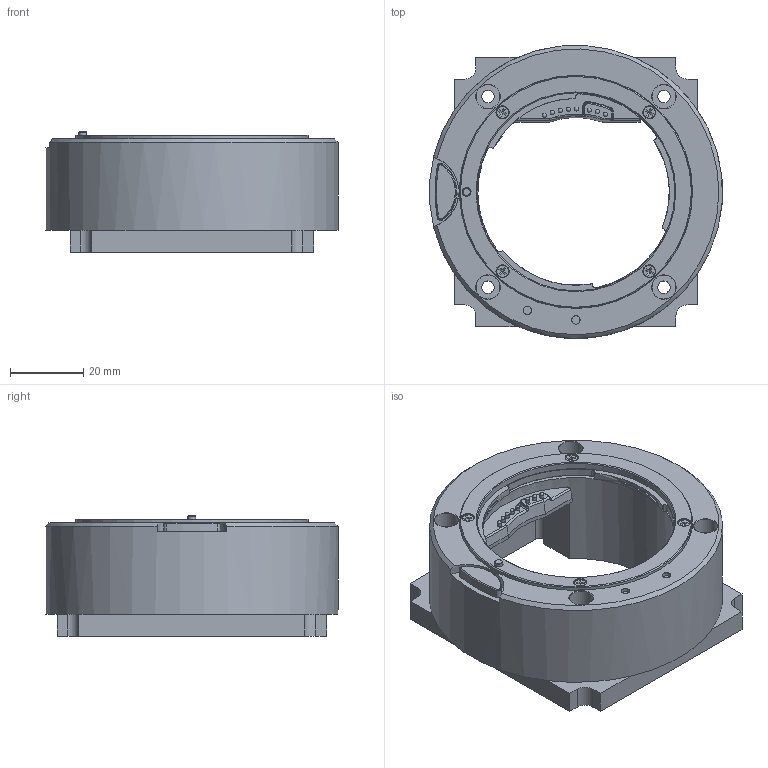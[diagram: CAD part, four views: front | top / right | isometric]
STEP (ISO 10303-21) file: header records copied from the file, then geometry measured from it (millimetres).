
FILE_DESCRIPTION (( 'STEP AP214' ), '1' );
FILE_NAME ('HZ EF Adaptor Mount Rev-2 Assembly.STEP', '2021-03-17T04:41:51', ( '' ), ( '' ), 'SwSTEP 2.0', 'SolidWorks 2020', '' );
FILE_SCHEMA (( 'AUTOMOTIVE_DESIGN' ));
Length unit declared in the file: millimetre
Products named in the file (13): HZ-EF Adaptor Mount Spring Pin; HZ EF Adaptor Mount Pin; HZ EF Adaptor Mount Rev-2 Assembly; pan cross head_am_B18.6.7M - M2 x 0.4 x 8 Type I Cross Recessed PHMS --8N; 5055680481 Molex Controller Connector; Short POGO Pin 0906-1-15-20-75-14-11-0; Long POGO Pin 0906-3-15-20-75-14-11-0; 2mm x 5 long flat head screw; HZ EF Adaptor Mount Ring; HZ-EF Push Lever Rev-3; PCB Cover; PCB for Pins; HZ EF Adaptor Rev-2
Assembly tree (22 placements, depth 2):
  HZ EF Adaptor Mount Rev-2 Assembly
    HZ EF Adaptor Rev-2
    HZ EF Adaptor Mount Ring
    PCB for Pins
    PCB Cover
    5055680481 Molex Controller Connector
    HZ-EF Adaptor Mount Spring Pin
    HZ-EF Push Lever Rev-3
    Short POGO Pin 0906-1-15-20-75-14-11-0  x5
    Long POGO Pin 0906-3-15-20-75-14-11-0  x3
    HZ EF Adaptor Mount Pin
    pan cross head_am_B18.6.7M - M2 x 0.4 x 8 Type I Cross Recessed PHMS --8N  x2
    2mm x 5 long flat head screw  x4
Bounding box: 79.79 x 79.91 x 32.92 mm (x, y, z)
Volume: 76688.7 mm3; surface area: 29159.7 mm2
Topology: 22 solids, 22 shells, 937 faces, 2366 edges, 1501 vertices
Faces by surface type: plane 560, cylinder 197, cone 125, bspline 25, sphere 18, torus 12
Full cylindrical faces by diameter (mm): 0.432 x8, 0.508 x8, 1 x2, 1.05 x1, 1.067 x8, 1.36 x1, 1.499 x8, 1.6 x6, 1.626 x8, 1.829 x8, 1.9 x1, 2 x8, 2.05 x1, 2.1 x5, 2.18 x1, 2.25 x2, 2.46 x1, 3.2 x4, 3.4 x8, 4 x2, 6.5 x4, 53.8 x1, 54 x1, 56 x1, 56.14 x1, 63.5 x1, 80 x1
Entity records: 28218 total; most frequent: CARTESIAN_POINT 5048, DIRECTION 3819, ORIENTED_EDGE 3750, EDGE_CURVE 1875, AXIS2_PLACEMENT_3D 1290, VERTEX_POINT 1272, VECTOR 1239, LINE 1239
